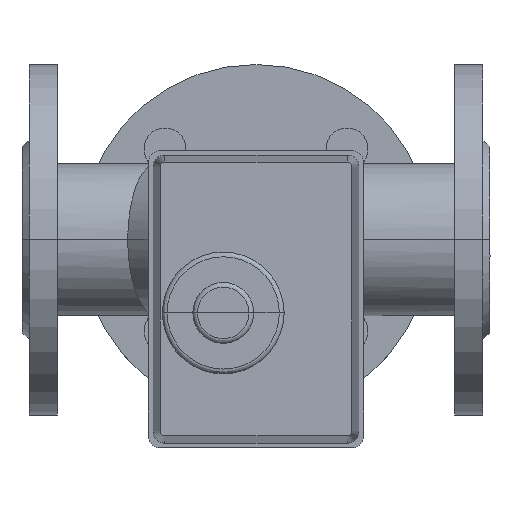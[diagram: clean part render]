
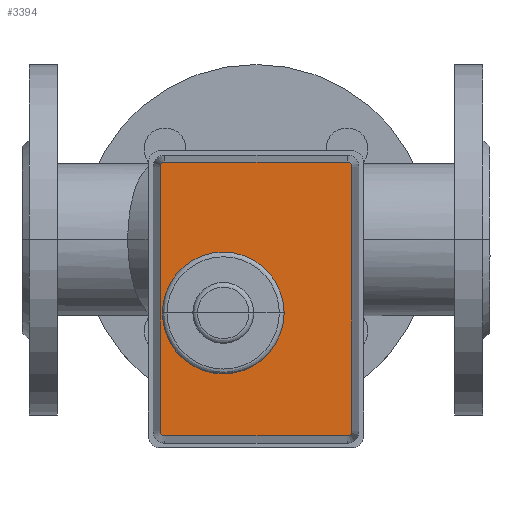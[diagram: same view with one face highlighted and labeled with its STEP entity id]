
A CAD part, top view. The second image highlights one B-rep face of the part: STEP entity #3394.
In plain terms, the highlighted planar face has unit normal (0, 0, 1).
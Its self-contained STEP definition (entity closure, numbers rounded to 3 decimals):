
#343=LINE('',#6128,#547);
#344=LINE('',#6132,#548);
#345=LINE('',#6136,#549);
#346=LINE('',#6139,#550);
#547=VECTOR('',#4756,304.8);
#548=VECTOR('',#4759,304.8);
#549=VECTOR('',#4762,304.8);
#550=VECTOR('',#4765,304.8);
#862=FACE_OUTER_BOUND('',#1092,.T.);
#1092=EDGE_LOOP('',(#2775,#2776,#2777,#2778,#2779,#2780,#2781,#2782));
#1317=CIRCLE('',#3799,2.);
#1318=CIRCLE('',#3800,2.);
#1319=CIRCLE('',#3801,2.);
#1320=CIRCLE('',#3802,2.);
#1585=VERTEX_POINT('',#6124);
#1586=VERTEX_POINT('',#6125);
#1587=VERTEX_POINT('',#6127);
#1588=VERTEX_POINT('',#6129);
#1589=VERTEX_POINT('',#6131);
#1590=VERTEX_POINT('',#6133);
#1591=VERTEX_POINT('',#6135);
#1592=VERTEX_POINT('',#6137);
#1991=EDGE_CURVE('',#1585,#1586,#1317,.T.);
#1992=EDGE_CURVE('',#1586,#1587,#343,.T.);
#1993=EDGE_CURVE('',#1587,#1588,#1318,.T.);
#1994=EDGE_CURVE('',#1588,#1589,#344,.T.);
#1995=EDGE_CURVE('',#1589,#1590,#1319,.T.);
#1996=EDGE_CURVE('',#1590,#1591,#345,.T.);
#1997=EDGE_CURVE('',#1591,#1592,#1320,.T.);
#1998=EDGE_CURVE('',#1592,#1585,#346,.T.);
#2775=ORIENTED_EDGE('',*,*,#1991,.T.);
#2776=ORIENTED_EDGE('',*,*,#1992,.T.);
#2777=ORIENTED_EDGE('',*,*,#1993,.T.);
#2778=ORIENTED_EDGE('',*,*,#1994,.T.);
#2779=ORIENTED_EDGE('',*,*,#1995,.T.);
#2780=ORIENTED_EDGE('',*,*,#1996,.T.);
#2781=ORIENTED_EDGE('',*,*,#1997,.T.);
#2782=ORIENTED_EDGE('',*,*,#1998,.T.);
#3002=PLANE('',#3798);
#3394=ADVANCED_FACE('',(#862),#3002,.T.);
#3798=AXIS2_PLACEMENT_3D('',#6123,#4752,#4753);
#3799=AXIS2_PLACEMENT_3D('',#6126,#4754,#4755);
#3800=AXIS2_PLACEMENT_3D('',#6130,#4757,#4758);
#3801=AXIS2_PLACEMENT_3D('',#6134,#4760,#4761);
#3802=AXIS2_PLACEMENT_3D('',#6138,#4763,#4764);
#4752=DIRECTION('center_axis',(0.,0.,1.));
#4753=DIRECTION('ref_axis',(0.,1.,0.));
#4754=DIRECTION('center_axis',(0.,0.,1.));
#4755=DIRECTION('ref_axis',(0.,-1.,0.));
#4756=DIRECTION('',(1.,0.,0.));
#4757=DIRECTION('center_axis',(0.,0.,
1.));
#4758=DIRECTION('ref_axis',(1.,0.,0.));
#4759=DIRECTION('',(0.,1.,0.));
#4760=DIRECTION('center_axis',(0.,0.,1.));
#4761=DIRECTION('ref_axis',(0.,1.,0.));
#4762=DIRECTION('',(-1.,0.,0.));
#4763=DIRECTION('center_axis',(0.,0.,1.));
#4764=DIRECTION('ref_axis',(-1.,0.,0.));
#4765=DIRECTION('',(0.,-1.,0.));
#6123=CARTESIAN_POINT('Origin',(-26.001,0.,
297.991));
#6124=CARTESIAN_POINT('',(-84.509,-39.,297.991));
#6125=CARTESIAN_POINT('',(-82.509,-41.,297.991));
#6126=CARTESIAN_POINT('Origin',(-82.509,-39.,297.991));
#6127=CARTESIAN_POINT('',(30.508,-41.,297.991));
#6128=CARTESIAN_POINT('',(30.508,-41.,297.991));
#6129=CARTESIAN_POINT('',(32.508,-39.,297.991));
#6130=CARTESIAN_POINT('Origin',(30.508,-39.,297.991));
#6131=CARTESIAN_POINT('',(32.508,39.,297.991));
#6132=CARTESIAN_POINT('',(32.508,39.,297.991));
#6133=CARTESIAN_POINT('',(30.508,41.,297.991));
#6134=CARTESIAN_POINT('Origin',(30.508,39.,297.991));
#6135=CARTESIAN_POINT('',(-82.509,41.,297.991));
#6136=CARTESIAN_POINT('',(-82.509,41.,297.991));
#6137=CARTESIAN_POINT('',(-84.509,39.,297.991));
#6138=CARTESIAN_POINT('Origin',(-82.509,39.,297.991));
#6139=CARTESIAN_POINT('',(-84.509,-39.,297.991));
